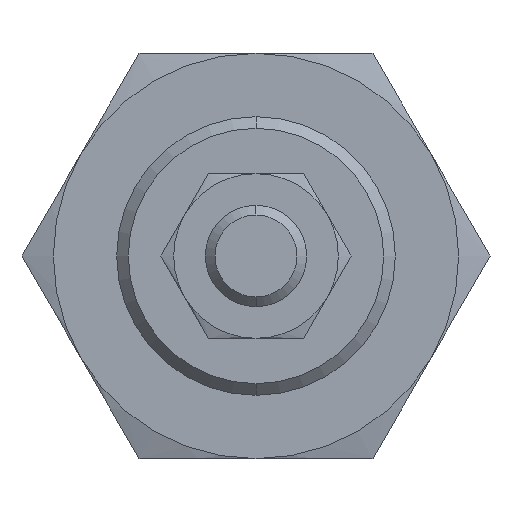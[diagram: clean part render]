
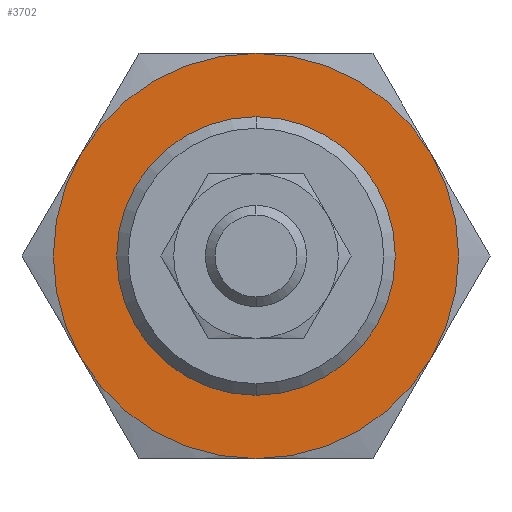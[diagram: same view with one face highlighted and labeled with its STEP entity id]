
A CAD part, left-side view. The second image highlights one B-rep face of the part: STEP entity #3702.
In plain terms, the highlighted planar face has unit normal (-1, 0, 0).
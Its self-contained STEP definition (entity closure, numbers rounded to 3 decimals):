
#16 = EDGE_CURVE ( 'NONE', #264, #3366, #1933, .T. ) ;
#66 = CIRCLE ( 'NONE', #278, 16. ) ;
#181 = VERTEX_POINT ( 'NONE', #2319 ) ;
#264 = VERTEX_POINT ( 'NONE', #604 ) ;
#278 = AXIS2_PLACEMENT_3D ( 'NONE', #2499, #1831, #1855 ) ;
#284 = ORIENTED_EDGE ( 'NONE', *, *, #2813, .F. ) ;
#287 = CIRCLE ( 'NONE', #2276, 11. ) ;
#332 = EDGE_LOOP ( 'NONE', ( #1137, #2724, #3122, #284, #2988, #2710 ) ) ;
#377 = DIRECTION ( 'NONE',  ( 0., 0., -1. ) ) ;
#378 = DIRECTION ( 'NONE',  ( 0., 0., -1. ) ) ;
#448 = CARTESIAN_POINT ( 'NONE',  ( -16.5, 0., 0. ) ) ;
#554 = FACE_OUTER_BOUND ( 'NONE', #332, .T. ) ;
#604 = CARTESIAN_POINT ( 'NONE',  ( -16.5, -13.856, -8. ) ) ;
#611 = DIRECTION ( 'NONE',  ( -1., 0., 0. ) ) ;
#619 = DIRECTION ( 'NONE',  ( 0., 0., -1. ) ) ;
#752 = CIRCLE ( 'NONE', #3912, 16. ) ;
#762 = DIRECTION ( 'NONE',  ( 0., 0., -1. ) ) ;
#932 = CARTESIAN_POINT ( 'NONE',  ( -16.5, 16., 0. ) ) ;
#984 = CARTESIAN_POINT ( 'NONE',  ( -16.5, -13.856, 8. ) ) ;
#1076 = ORIENTED_EDGE ( 'NONE', *, *, #3094, .T. ) ;
#1114 = DIRECTION ( 'NONE',  ( 0., 0., -1. ) ) ;
#1137 = ORIENTED_EDGE ( 'NONE', *, *, #2855, .F. ) ;
#1204 = PLANE ( 'NONE',  #3778 ) ;
#1213 = DIRECTION ( 'NONE',  ( 1., 0., 0. ) ) ;
#1245 = CARTESIAN_POINT ( 'NONE',  ( -16.5, 13.856, 8. ) ) ;
#1515 = CIRCLE ( 'NONE', #2135, 16. ) ;
#1649 = CARTESIAN_POINT ( 'NONE',  ( -16.5, 0., -16. ) ) ;
#1716 = VERTEX_POINT ( 'NONE', #2069 ) ;
#1723 = AXIS2_PLACEMENT_3D ( 'NONE', #2576, #1213, #1856 ) ;
#1734 = DIRECTION ( 'NONE',  ( 1., 0., 0. ) ) ;
#1759 = DIRECTION ( 'NONE',  ( 1., 0., 0. ) ) ;
#1831 = DIRECTION ( 'NONE',  ( 1., 0., 0. ) ) ;
#1842 = VERTEX_POINT ( 'NONE', #1245 ) ;
#1855 = DIRECTION ( 'NONE',  ( 0., 0., -1. ) ) ;
#1856 = DIRECTION ( 'NONE',  ( 0., 0., -1. ) ) ;
#1859 = VERTEX_POINT ( 'NONE', #2234 ) ;
#1933 = CIRCLE ( 'NONE', #3233, 16. ) ;
#1975 = CARTESIAN_POINT ( 'NONE',  ( -16.5, 0., 0. ) ) ;
#1976 = DIRECTION ( 'NONE',  ( 1., 0., 0. ) ) ;
#2059 = CARTESIAN_POINT ( 'NONE',  ( -16.5, 0., 0. ) ) ;
#2069 = CARTESIAN_POINT ( 'NONE',  ( -16.5, 13.856, -8. ) ) ;
#2135 = AXIS2_PLACEMENT_3D ( 'NONE', #3364, #1734, #3039 ) ;
#2234 = CARTESIAN_POINT ( 'NONE',  ( -16.5, 0., 11. ) ) ;
#2276 = AXIS2_PLACEMENT_3D ( 'NONE', #3625, #1976, #378 ) ;
#2294 = DIRECTION ( 'NONE',  ( 1., 0., 0. ) ) ;
#2319 = CARTESIAN_POINT ( 'NONE',  ( -16.5, 0., -11. ) ) ;
#2499 = CARTESIAN_POINT ( 'NONE',  ( -16.5, 0., 0. ) ) ;
#2514 = EDGE_LOOP ( 'NONE', ( #1076, #3868 ) ) ;
#2516 = VERTEX_POINT ( 'NONE', #984 ) ;
#2576 = CARTESIAN_POINT ( 'NONE',  ( -16.5, 0., 0. ) ) ;
#2616 = CIRCLE ( 'NONE', #3372, 11. ) ;
#2656 = DIRECTION ( 'NONE',  ( 1., 0., 0. ) ) ;
#2710 = ORIENTED_EDGE ( 'NONE', *, *, #4016, .F. ) ;
#2724 = ORIENTED_EDGE ( 'NONE', *, *, #3441, .F. ) ;
#2813 = EDGE_CURVE ( 'NONE', #2516, #264, #3517, .T. ) ;
#2855 = EDGE_CURVE ( 'NONE', #1716, #1842, #3298, .T. ) ;
#2927 = EDGE_CURVE ( 'NONE', #181, #1859, #287, .T. ) ;
#2988 = ORIENTED_EDGE ( 'NONE', *, *, #3617, .F. ) ;
#3039 = DIRECTION ( 'NONE',  ( 0., 0., -1. ) ) ;
#3073 = VERTEX_POINT ( 'NONE', #4054 ) ;
#3094 = EDGE_CURVE ( 'NONE', #1859, #181, #2616, .T. ) ;
#3122 = ORIENTED_EDGE ( 'NONE', *, *, #16, .F. ) ;
#3233 = AXIS2_PLACEMENT_3D ( 'NONE', #2059, #3666, #762 ) ;
#3298 = CIRCLE ( 'NONE', #3648, 16. ) ;
#3364 = CARTESIAN_POINT ( 'NONE',  ( -16.5, 0., 0. ) ) ;
#3366 = VERTEX_POINT ( 'NONE', #1649 ) ;
#3372 = AXIS2_PLACEMENT_3D ( 'NONE', #448, #1759, #1114 ) ;
#3441 = EDGE_CURVE ( 'NONE', #3366, #1716, #752, .T. ) ;
#3517 = CIRCLE ( 'NONE', #1723, 16. ) ;
#3617 = EDGE_CURVE ( 'NONE', #3073, #2516, #1515, .T. ) ;
#3625 = CARTESIAN_POINT ( 'NONE',  ( -16.5, 0., 0. ) ) ;
#3648 = AXIS2_PLACEMENT_3D ( 'NONE', #3908, #2294, #619 ) ;
#3666 = DIRECTION ( 'NONE',  ( 1., 0., 0. ) ) ;
#3702 = ADVANCED_FACE ( 'NONE', ( #554, #3882 ), #1204, .T. ) ;
#3778 = AXIS2_PLACEMENT_3D ( 'NONE', #932, #611, #3823 ) ;
#3823 = DIRECTION ( 'NONE',  ( 0., 0., 1. ) ) ;
#3868 = ORIENTED_EDGE ( 'NONE', *, *, #2927, .T. ) ;
#3882 = FACE_BOUND ( 'NONE', #2514, .T. ) ;
#3908 = CARTESIAN_POINT ( 'NONE',  ( -16.5, 0., 0. ) ) ;
#3912 = AXIS2_PLACEMENT_3D ( 'NONE', #1975, #2656, #377 ) ;
#4016 = EDGE_CURVE ( 'NONE', #1842, #3073, #66, .T. ) ;
#4054 = CARTESIAN_POINT ( 'NONE',  ( -16.5, 0., 16. ) ) ;
